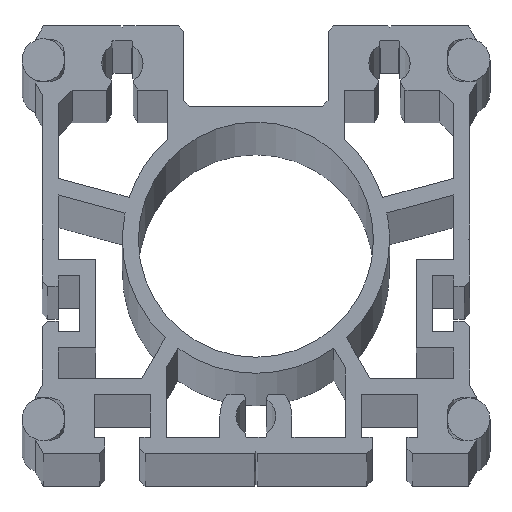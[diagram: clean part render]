
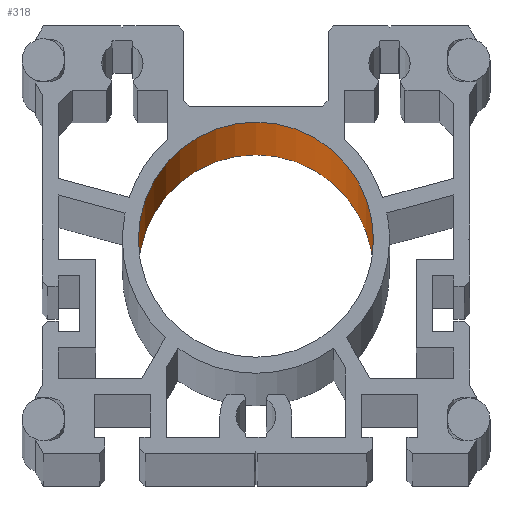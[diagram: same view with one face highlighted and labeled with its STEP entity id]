
A CAD part, top view. The second image highlights one B-rep face of the part: STEP entity #318.
In plain terms, the highlighted cylindrical face has radius 22 mm (diameter 44 mm), a partial arc.
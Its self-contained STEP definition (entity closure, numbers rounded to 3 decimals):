
#84 = DIRECTION ( 'NONE',  ( 1., 0., 0. ) ) ;
#85 = DIRECTION ( 'NONE',  ( 0., 0., 1. ) ) ;
#86 = CARTESIAN_POINT ( 'NONE',  ( 0., 40., -1749. ) ) ;
#87 = AXIS2_PLACEMENT_3D ( 'NONE', #86, #85, #84 ) ;
#88 = CIRCLE ( 'NONE', #87, 22. ) ;
#316 = EDGE_CURVE ( 'NONE', #1261, #1258, #3148, .T. ) ;
#318 = ADVANCED_FACE ( 'NONE', ( #3143 ), #3142, .F. ) ;
#319 = EDGE_LOOP ( 'NONE', ( #320, #321, #322, #323 ) ) ;
#320 = ORIENTED_EDGE ( 'NONE', *, *, #1257, .F. ) ;
#321 = ORIENTED_EDGE ( 'NONE', *, *, #5432, .F. ) ;
#322 = ORIENTED_EDGE ( 'NONE', *, *, #1268, .T. ) ;
#323 = ORIENTED_EDGE ( 'NONE', *, *, #316, .T. ) ;
#1254 = VERTEX_POINT ( 'NONE', #4447 ) ;
#1255 = VERTEX_POINT ( 'NONE', #4446 ) ;
#1257 = EDGE_CURVE ( 'NONE', #1254, #1258, #4445, .T. ) ;
#1258 = VERTEX_POINT ( 'NONE', #4441 ) ;
#1261 = VERTEX_POINT ( 'NONE', #4435 ) ;
#1268 = EDGE_CURVE ( 'NONE', #1255, #1261, #4705, .T. ) ;
#3137 = DIRECTION ( 'NONE',  ( 1., 0., 0. ) ) ;
#3138 = DIRECTION ( 'NONE',  ( 0., 0., 1. ) ) ;
#3139 = CARTESIAN_POINT ( 'NONE',  ( 0., 40., -1749. ) ) ;
#3140 = AXIS2_PLACEMENT_3D ( 'NONE', #3139, #3138, #3137 ) ;
#3142 = CYLINDRICAL_SURFACE ( 'NONE', #3140, 22. ) ;
#3143 = FACE_OUTER_BOUND ( 'NONE', #319, .T. ) ;
#3144 = DIRECTION ( 'NONE',  ( 1., 0., 0. ) ) ;
#3145 = DIRECTION ( 'NONE',  ( 0., 0., 1. ) ) ;
#3146 = CARTESIAN_POINT ( 'NONE',  ( 0., 40., 1749. ) ) ;
#3147 = AXIS2_PLACEMENT_3D ( 'NONE', #3146, #3145, #3144 ) ;
#3148 = CIRCLE ( 'NONE', #3147, 22. ) ;
#4435 = CARTESIAN_POINT ( 'NONE',  ( 22., 40., 1749. ) ) ;
#4441 = CARTESIAN_POINT ( 'NONE',  ( -22., 40., 1749. ) ) ;
#4442 = DIRECTION ( 'NONE',  ( 0., 0., 1. ) ) ;
#4443 = VECTOR ( 'NONE', #4442, 1000. ) ;
#4444 = CARTESIAN_POINT ( 'NONE',  ( -22., 40., -1749. ) ) ;
#4445 = LINE ( 'NONE', #4444, #4443 ) ;
#4446 = CARTESIAN_POINT ( 'NONE',  ( 22., 40., -1749. ) ) ;
#4447 = CARTESIAN_POINT ( 'NONE',  ( -22., 40., -1749. ) ) ;
#4647 = DIRECTION ( 'NONE',  ( 0., 0., 1. ) ) ;
#4648 = VECTOR ( 'NONE', #4647, 1000. ) ;
#4649 = CARTESIAN_POINT ( 'NONE',  ( 22., 40., -1749. ) ) ;
#4705 = LINE ( 'NONE', #4649, #4648 ) ;
#5432 = EDGE_CURVE ( 'NONE', #1255, #1254, #88, .T. ) ;
